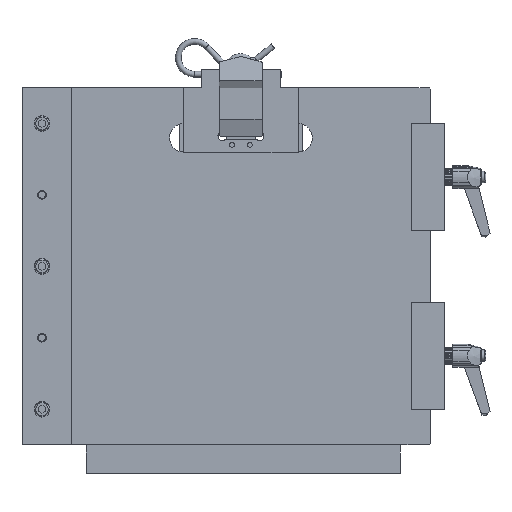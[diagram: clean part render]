
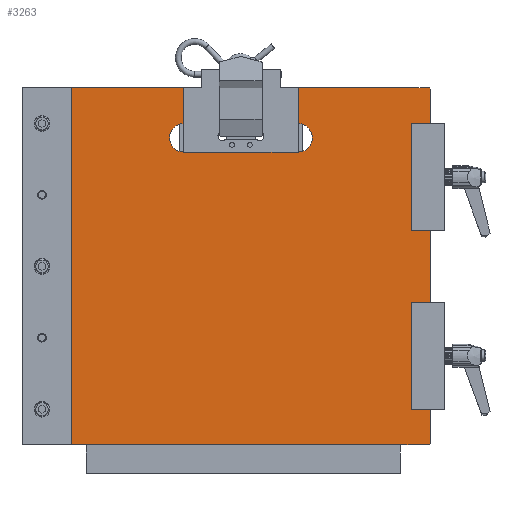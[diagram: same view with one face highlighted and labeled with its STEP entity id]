
A CAD part, left-side view. The second image highlights one B-rep face of the part: STEP entity #3263.
In plain terms, the highlighted planar face has unit normal (-1, 0, 0).
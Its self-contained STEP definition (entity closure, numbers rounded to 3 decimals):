
#3263=ADVANCED_FACE('',(#5152),#5153,.T.);
#5152=FACE_OUTER_BOUND('',#8690,.T.);
#5153=PLANE('',#8691);
#8690=EDGE_LOOP('',(#15217,#15218,#15219,#15220,#15221,#15222,#15223,#15224,#15225,#15226,#15227,#15228,#15229,#15230,#15231,#15232,#15233,#15234));
#8691=AXIS2_PLACEMENT_3D('',#15235,#15236,#15237);
#15217=ORIENTED_EDGE('',*,*,#20145,.T.);
#15218=ORIENTED_EDGE('',*,*,#20088,.T.);
#15219=ORIENTED_EDGE('',*,*,#20134,.T.);
#15220=ORIENTED_EDGE('',*,*,#20084,.T.);
#15221=ORIENTED_EDGE('',*,*,#20146,.T.);
#15222=ORIENTED_EDGE('',*,*,#20122,.T.);
#15223=ORIENTED_EDGE('',*,*,#20147,.F.);
#15224=ORIENTED_EDGE('',*,*,#20130,.T.);
#15225=ORIENTED_EDGE('',*,*,#20148,.F.);
#15226=ORIENTED_EDGE('',*,*,#20149,.F.);
#15227=ORIENTED_EDGE('',*,*,#20150,.T.);
#15228=ORIENTED_EDGE('',*,*,#20126,.T.);
#15229=ORIENTED_EDGE('',*,*,#20151,.F.);
#15230=ORIENTED_EDGE('',*,*,#20118,.T.);
#15231=ORIENTED_EDGE('',*,*,#20138,.T.);
#15232=ORIENTED_EDGE('',*,*,#20110,.T.);
#15233=ORIENTED_EDGE('',*,*,#20152,.F.);
#15234=ORIENTED_EDGE('',*,*,#20116,.T.);
#15235=CARTESIAN_POINT('',(0.,-150.0,125.0));
#15236=DIRECTION('',(-1.0,0.,0.0));
#15237=DIRECTION('',(0.,-1.0,0.0));
#20084=EDGE_CURVE('',#24079,#24077,#24080,.F.);
#20088=EDGE_CURVE('',#24087,#24085,#24088,.F.);
#20110=EDGE_CURVE('',#24126,#24127,#24128,.T.);
#20116=EDGE_CURVE('',#24139,#24137,#24140,.T.);
#20118=EDGE_CURVE('',#24142,#24143,#24144,.T.);
#20122=EDGE_CURVE('',#24150,#24151,#24152,.T.);
#20126=EDGE_CURVE('',#24158,#24159,#24160,.T.);
#20130=EDGE_CURVE('',#24166,#24167,#24168,.T.);
#20134=EDGE_CURVE('',#24085,#24079,#24174,.T.);
#20138=EDGE_CURVE('',#24143,#24126,#24178,.T.);
#20145=EDGE_CURVE('',#24137,#24087,#24187,.T.);
#20146=EDGE_CURVE('',#24077,#24150,#24188,.T.);
#20147=EDGE_CURVE('',#24166,#24151,#24189,.T.);
#20148=EDGE_CURVE('',#24190,#24167,#24191,.T.);
#20149=EDGE_CURVE('',#24192,#24190,#24193,.T.);
#20150=EDGE_CURVE('',#24192,#24158,#24194,.F.);
#20151=EDGE_CURVE('',#24142,#24159,#24195,.T.);
#20152=EDGE_CURVE('',#24139,#24127,#24196,.T.);
#24077=VERTEX_POINT('',#30636);
#24079=VERTEX_POINT('',#30639);
#24080=LINE('',#30640,#30641);
#24085=VERTEX_POINT('',#30648);
#24087=VERTEX_POINT('',#30651);
#24088=LINE('',#30652,#30653);
#24126=VERTEX_POINT('',#30696);
#24127=VERTEX_POINT('',#30697);
#24128=LINE('',#30698,#30699);
#24137=VERTEX_POINT('',#30712);
#24139=VERTEX_POINT('',#30715);
#24140=LINE('',#30716,#30717);
#24142=VERTEX_POINT('',#30720);
#24143=VERTEX_POINT('',#30721);
#24144=LINE('',#30722,#30723);
#24150=VERTEX_POINT('',#30732);
#24151=VERTEX_POINT('',#30733);
#24152=LINE('',#30734,#30735);
#24158=VERTEX_POINT('',#30744);
#24159=VERTEX_POINT('',#30745);
#24160=CIRCLE('',#30746,0.5);
#24166=VERTEX_POINT('',#30754);
#24167=VERTEX_POINT('',#30755);
#24168=CIRCLE('',#30756,0.5);
#24174=LINE('',#30764,#30765);
#24178=LINE('',#30772,#30773);
#24187=LINE('',#30786,#30787);
#24188=LINE('',#30788,#30789);
#24189=LINE('',#30790,#30791);
#24190=VERTEX_POINT('',#30792);
#24191=CIRCLE('',#30793,10.0);
#24192=VERTEX_POINT('',#30794);
#24193=LINE('',#30795,#30796);
#24194=CIRCLE('',#30797,10.0);
#24195=LINE('',#30798,#30799);
#24196=LINE('',#30800,#30801);
#30636=CARTESIAN_POINT('',(0.,-149.0,125.0));
#30639=CARTESIAN_POINT('',(0.,-150.0,124.0));
#30640=CARTESIAN_POINT('',(0.,-149.5,124.5));
#30641=VECTOR('',#36152,1.0);
#30648=CARTESIAN_POINT('',(0.,-150.0,-124.0));
#30651=CARTESIAN_POINT('',(0.,-149.0,-125.0));
#30652=CARTESIAN_POINT('',(0.,-274.5,0.5));
#30653=VECTOR('',#36156,1.0);
#30696=CARTESIAN_POINT('',(0.,107.5,125.0));
#30697=CARTESIAN_POINT('',(0.,108.0,124.5));
#30698=CARTESIAN_POINT('',(0.,-21.25,253.75));
#30699=VECTOR('',#36204,1.0);
#30712=CARTESIAN_POINT('',(0.,107.5,-125.0));
#30715=CARTESIAN_POINT('',(0.,108.0,-124.5));
#30716=CARTESIAN_POINT('',(0.,103.75,-128.75));
#30717=VECTOR('',#36210,1.0);
#30720=CARTESIAN_POINT('',(0.,22.7,124.5));
#30721=CARTESIAN_POINT('',(0.,23.2,125.0));
#30722=CARTESIAN_POINT('',(0.,-63.4,38.4));
#30723=VECTOR('',#36212,1.0);
#30732=CARTESIAN_POINT('',(0.,-57.8,125.0));
#30733=CARTESIAN_POINT('',(0.,-57.3,124.5));
#30734=CARTESIAN_POINT('',(0.,-103.9,171.1));
#30735=VECTOR('',#36216,1.0);
#30744=CARTESIAN_POINT('',(0.,23.176,99.989));
#30745=CARTESIAN_POINT('',(0.,22.7,100.488));
#30746=AXIS2_PLACEMENT_3D('',#36220,#36221,#36222);
#30754=CARTESIAN_POINT('',(0.,-57.3,100.488));
#30755=CARTESIAN_POINT('',(0.,-57.776,99.989));
#30756=AXIS2_PLACEMENT_3D('',#36228,#36229,#36230);
#30764=CARTESIAN_POINT('',(0.,-150.0,-125.0));
#30765=VECTOR('',#36236,1.0);
#30772=CARTESIAN_POINT('',(0.,-150.0,125.0));
#30773=VECTOR('',#36240,1.0);
#30786=CARTESIAN_POINT('',(0.,136.0,-125.0));
#30787=VECTOR('',#36251,1.0);
#30788=CARTESIAN_POINT('',(0.,-150.0,125.0));
#30789=VECTOR('',#36252,1.0);
#30790=CARTESIAN_POINT('',(0.,-57.3,125.0));
#30791=VECTOR('',#36253,1.0);
#30792=CARTESIAN_POINT('',(0.,-57.3,80.0));
#30793=AXIS2_PLACEMENT_3D('',#36254,#36255,#36256);
#30794=CARTESIAN_POINT('',(0.0,22.7,80.0));
#30795=CARTESIAN_POINT('',(0.,-150.0,80.0));
#30796=VECTOR('',#36257,1.0);
#30797=AXIS2_PLACEMENT_3D('',#36258,#36259,#36260);
#30798=CARTESIAN_POINT('',(0.,22.7,125.0));
#30799=VECTOR('',#36261,1.0);
#30800=CARTESIAN_POINT('',(0.,108.0,125.0));
#30801=VECTOR('',#36262,1.0);
#36152=DIRECTION('',(0.,-0.707,-0.707));
#36156=DIRECTION('',(0.,0.707,-0.707));
#36204=DIRECTION('',(0.,0.707,-0.707));
#36210=DIRECTION('',(0.,-0.707,-0.707));
#36212=DIRECTION('',(0.,0.707,0.707));
#36216=DIRECTION('',(0.,0.707,-0.707));
#36220=CARTESIAN_POINT('',(0.0,23.2,100.488));
#36221=DIRECTION('',(-1.0,0.,0.0));
#36222=DIRECTION('',(0.,-1.0,0.0));
#36228=CARTESIAN_POINT('',(0.,-57.8,100.488));
#36229=DIRECTION('',(-1.0,0.,0.0));
#36230=DIRECTION('',(0.,-1.0,0.0));
#36236=DIRECTION('',(0.0,0.0,1.0));
#36240=DIRECTION('',(0.,1.0,0.0));
#36251=DIRECTION('',(0.,-1.0,0.));
#36252=DIRECTION('',(0.,1.0,0.0));
#36253=DIRECTION('',(0.0,0.0,1.0));
#36254=CARTESIAN_POINT('',(0.,-57.3,90.0));
#36255=DIRECTION('',(-1.0,0.,0.0));
#36256=DIRECTION('',(0.,-1.0,0.0));
#36257=DIRECTION('',(0.,-1.0,0.0));
#36258=CARTESIAN_POINT('',(0.0,22.7,90.0));
#36259=DIRECTION('',(-1.0,0.,0.0));
#36260=DIRECTION('',(0.,-1.0,0.0));
#36261=DIRECTION('',(0.0,0.0,-1.0));
#36262=DIRECTION('',(0.,0.,1.0));
